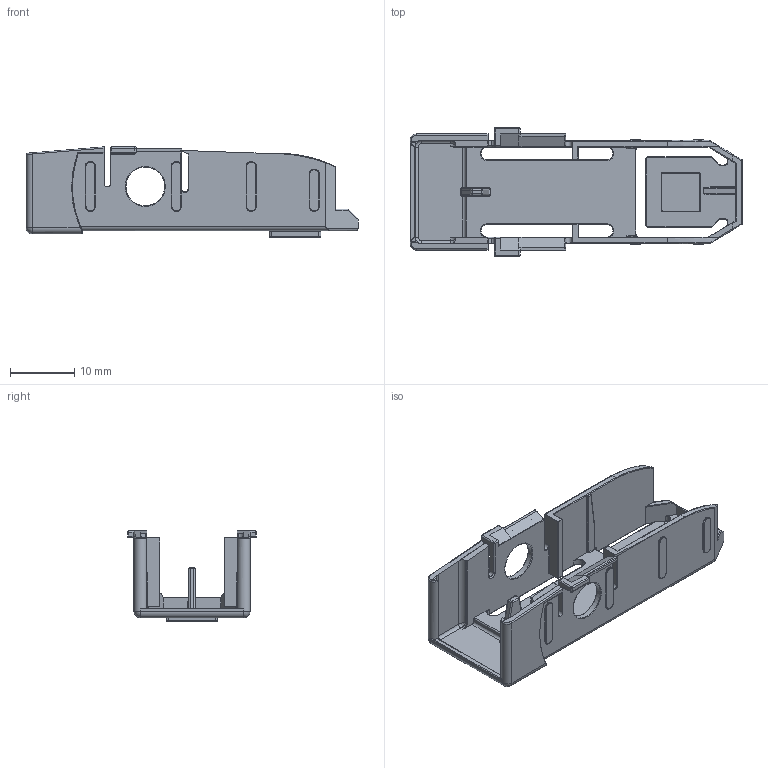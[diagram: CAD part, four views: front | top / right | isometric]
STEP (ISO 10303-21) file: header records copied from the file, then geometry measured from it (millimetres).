
FILE_DESCRIPTION(('CATIA V5 STEP Exchange','CAx-IF Rec.Pracs.--- Model Styling and Organization---1.5--- 2016-08-15','CAx-IF Rec.Pracs.---Supplemental Geometry---1.0---2011-11-01','CAx-IF Rec.Pracs.--- Composite Materials ---3.4---2017-06-13','CAx-IF Rec.Pracs.---Tessellated 3D Geometry---1.0---2015-12-17'),'2;1');
FILE_NAME('C:\Users\HP\Desktop\Přílohy\Model výrobku step.stp','2025-05-15T17:26:31+00:00',('none'),('none'),'CATIA Version 5-6 Release 2020 SP6','CATIA V5 STEP AP242 v2','none');
FILE_SCHEMA(('AP242_MANAGED_MODEL_BASED_3D_ENGINEERING_MIM_LF {1 0 10303 442 1 1 4}'));
Length unit declared in the file: millimetre
Products named in the file (1): Part1
Bounding box: 51.5 x 20 x 14 mm (x, y, z)
Volume: 1802.9 mm3; surface area: 4177.1 mm2
Topology: 1 solids, 1 shells, 612 faces, 1552 edges, 906 vertices
Faces by surface type: cylinder 291, plane 146, torus 100, bspline 39, sphere 32, extrusion 4
Entity records: 21729 total; most frequent: CARTESIAN_POINT 8218, ORIENTED_EDGE 3022, DIRECTION 2310, EDGE_CURVE 1511, AXIS2_PLACEMENT_3D 1114, VERTEX_POINT 906, VECTOR 684, LINE 680
